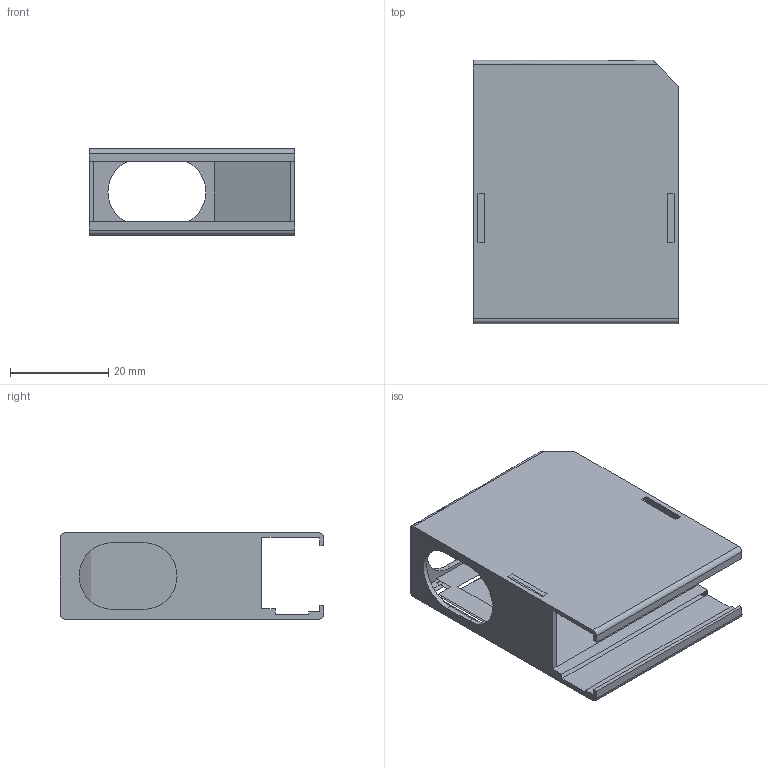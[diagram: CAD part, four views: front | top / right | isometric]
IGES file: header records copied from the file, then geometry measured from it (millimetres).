
Start section:  PTC IGES file: cd-ni-9965-backshell.igs
Global section: file name: cd-ni-9965-backshell.igs; native system: Pro/ENGINEER by Parametric Technology Corporation; preprocessor: 2006080; author: scarrasc; organization: Unknown; date: 100301.121607; units: inch
Bounding box: 42 x 53.8 x 17.6 mm (x, y, z)
Surface area: 11965.8 mm2 (no closed solid volume)
Topology: 0 solids, 0 shells, 38 faces, 278 edges, 278 vertices
Faces by surface type: bspline 29, revolution 9
